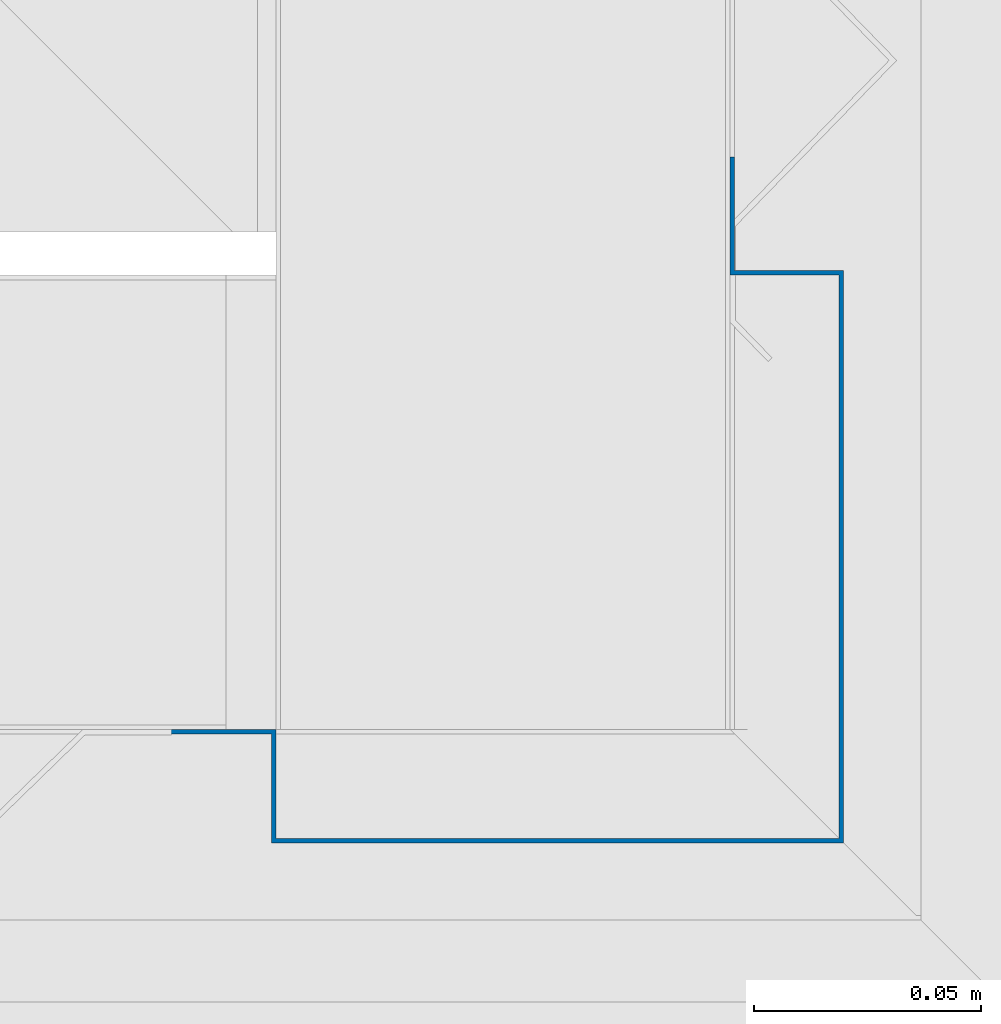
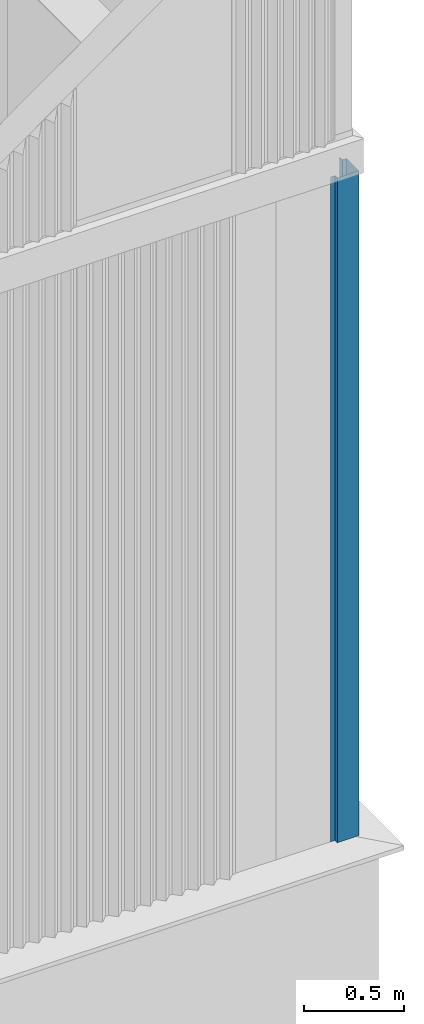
# One storey, part 34 of 338: 1 column.
"""IFC2X3 building model written with IfcOpenShell, lengths in millimetres."""

from ifc_helpers import new_model, entity, si_unit, converted_unit, derived_unit, money_unit, direction, frame, origin_with_axes, place, context, subcontext, project, spatial, faceted_brep, material, type_object, element, save


model = new_model("IFC2X3")

# Units and contexts
model_context = context("Model", 3, precision=0.01, world=origin_with_axes(), true_north=direction((0.0, 1.0)))
plan_context = context("Plan", 3, precision=0.01, world=origin_with_axes(), true_north=direction((0.0, 1.0)))
body_context = subcontext(model_context, "Body", "Model", "MODEL_VIEW")
ifc_project = project(units=[si_unit("LENGTHUNIT", "METRE", prefix="MILLI"), si_unit("AREAUNIT", "SQUARE_METRE"), si_unit("VOLUMEUNIT", "CUBIC_METRE"), converted_unit("PLANEANGLEUNIT", "DEGREE", entity("IfcPlaneAngleMeasure", 0.0174532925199), si_unit("PLANEANGLEUNIT", "RADIAN"), dimensions=[0, 0, 0, 0, 0, 0, 0]), money_unit("EUR"), converted_unit("TIMEUNIT", "Year", entity("IfcTimeMeasure", 31556926.0), si_unit("TIMEUNIT", "SECOND"), dimensions=[0, 0, 1, 0, 0, 0, 0]), si_unit("MASSUNIT", "GRAM", prefix="KILO"), si_unit("THERMODYNAMICTEMPERATUREUNIT", "DEGREE_CELSIUS"), si_unit("LUMINOUSINTENSITYUNIT", "LUMEN"), si_unit("ENERGYUNIT", "JOULE", prefix="MEGA"), derived_unit("THERMALCONDUCTANCEUNIT", [(si_unit("POWERUNIT", "WATT"), 1), (si_unit("LENGTHUNIT", "METRE"), -1), (si_unit("THERMODYNAMICTEMPERATUREUNIT", "KELVIN"), -1)]), derived_unit("SPECIFICHEATCAPACITYUNIT", [(si_unit("ENERGYUNIT", "JOULE"), 1), (si_unit("MASSUNIT", "GRAM", prefix="KILO"), -1), (si_unit("THERMODYNAMICTEMPERATUREUNIT", "KELVIN"), -1)]), derived_unit("MASSDENSITYUNIT", [(si_unit("MASSUNIT", "GRAM", prefix="KILO"), 1), (si_unit("VOLUMEUNIT", "CUBIC_METRE"), -1)])], contexts=[model_context, plan_context])

# Site, building, storey
site_placement = place(None, origin_with_axes())
site = spatial("IfcSite", under=ifc_project, at=site_placement, Name="Fortuinstraat Woensdrecht", CompositionType="ELEMENT")
building_placement = place(site_placement, origin_with_axes())
building = spatial("IfcBuilding", under=site, at=building_placement, Name="IKC Fortuna", CompositionType="ELEMENT")
storey_placement = place(building_placement, origin_with_axes())
storey = spatial("IfcBuildingStorey", under=building, at=storey_placement, Name="00 begane grond", CompositionType="ELEMENT", Elevation=0.0)

# Column
ifc_material = material(Name="Metaal - Aluminium")
column_type = type_object("IfcColumnType", Name="41 Zetwerk SW hoek 151 x 151", PredefinedType="COLUMN")
column_placement = place(storey_placement, frame((59533.4270571, 20896.2966283, 1000.0), z_axis=(0.0, 0.0, 1.0), x_axis=(0.0, 1.0, 0.0)))
element("IfcColumn", 1, at=column_placement, inside=storey, type_object=column_type, material=ifc_material, Name="28_Kolom_omtimmering kolom", ObjectType="COLUMN", context=body_context, shape_type="Brep", body=[
    faceted_brep([(100.0, 0.0, 4069.99999804), (100.0, 0.0, 0.0), (100.0, -24.0, 0.0), (100.0, -24.0, 4069.99999804), (126.0, 0.0, 4069.99999804), (126.0, 0.0, 0.0), (126.0, -0.999999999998, 0.0), (101.0, -0.999999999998, 0.0), (101.0, -25.0, 0.0), (-25.0, -25.0, 0.0), (-25.0, 101.0, 0.0), (-1.0, 101.0, 0.0), (-1.0, 126.150271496, 0.0), (-1.20792265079e-10, 126.150271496, 0.0), (0.0, 100.0, 0.0), (-24.0, 100.0, 0.0), (-24.0, -24.0, 0.0), (-24.0, -24.0, 4069.99999804), (-24.0, 100.0, 4069.99999804), (0.0, 100.0, 4069.99999804), (-1.20792265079e-10, 126.150271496, 4069.99999804), (-1.0, 126.150271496, 4069.99999804), (-1.0, 101.0, 4069.99999804), (-25.0, 101.0, 4069.99999804), (-25.0, -25.0, 4069.99999804), (101.0, -25.0, 4069.99999804), (101.0, -0.999999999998, 4069.99999804), (126.0, -0.999999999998, 4069.99999804)], [[[0, 1, 2, 3]], [[4, 5, 1, 0]], [[2, 1, 5, 6, 7, 8, 9, 10, 11, 12, 13, 14, 15, 16]], [[3, 2, 16, 17]], [[4, 0, 3, 17, 18, 19, 20, 21, 22, 23, 24, 25, 26, 27]], [[27, 6, 5, 4]], [[26, 7, 6, 27]], [[25, 8, 7, 26]], [[24, 9, 8, 25]], [[23, 10, 9, 24]], [[22, 11, 10, 23]], [[21, 12, 11, 22]], [[20, 13, 12, 21]], [[19, 14, 13, 20]], [[18, 15, 14, 19]], [[17, 16, 15, 18]]]),
])

save(model, "model.ifc")
